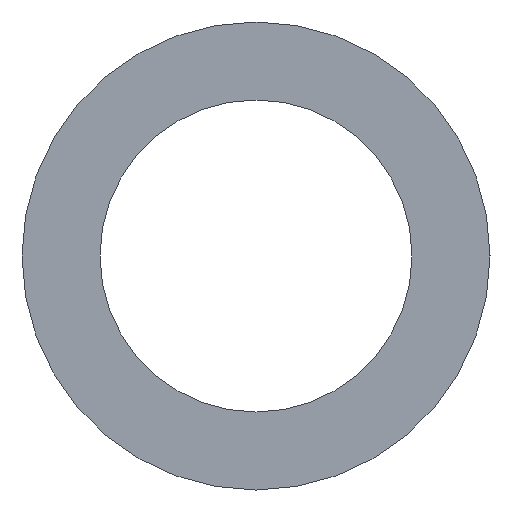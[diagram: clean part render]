
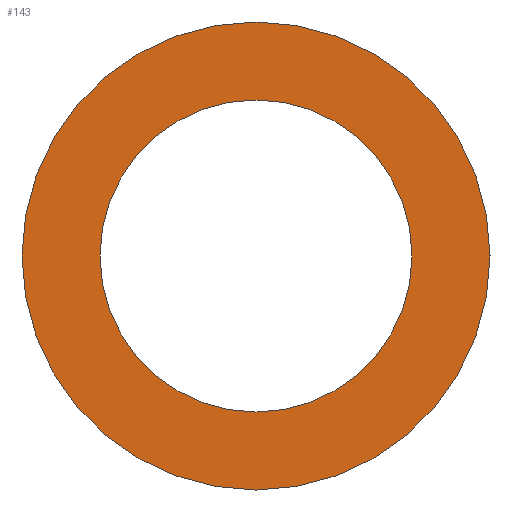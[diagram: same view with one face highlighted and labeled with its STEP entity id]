
A CAD part, left-side view. The second image highlights one B-rep face of the part: STEP entity #143.
In plain terms, the highlighted planar face has unit normal (-1, 0, 0).
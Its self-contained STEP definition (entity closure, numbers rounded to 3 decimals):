
#21=PLANE('',#173);
#32=ORIENTED_EDGE('',*,*,#55,.F.);
#33=ORIENTED_EDGE('',*,*,#56,.T.);
#55=EDGE_CURVE('',#67,#67,#79,.T.);
#56=EDGE_CURVE('',#68,#68,#80,.T.);
#67=VERTEX_POINT('',#255);
#68=VERTEX_POINT('',#257);
#79=CIRCLE('',#174,22.5);
#80=CIRCLE('',#175,15.);
#92=EDGE_LOOP('',(#32));
#93=EDGE_LOOP('',(#33));
#116=FACE_BOUND('',#92,.T.);
#117=FACE_BOUND('',#93,.T.);
#143=ADVANCED_FACE('',(#116,#117),#21,.F.);
#173=AXIS2_PLACEMENT_3D('',#253,#207,#208);
#174=AXIS2_PLACEMENT_3D('',#254,#209,#210);
#175=AXIS2_PLACEMENT_3D('',#256,#211,#212);
#207=DIRECTION('',(1.,0.,0.));
#208=DIRECTION('',(0.,0.,-1.));
#209=DIRECTION('',(1.,0.,0.));
#210=DIRECTION('',(0.,0.,-1.));
#211=DIRECTION('',(1.,0.,0.));
#212=DIRECTION('',(0.,0.,-1.));
#253=CARTESIAN_POINT('',(-61.5,0.,0.));
#254=CARTESIAN_POINT('',(-61.5,0.,0.));
#255=CARTESIAN_POINT('',(-61.5,0.,-22.5));
#256=CARTESIAN_POINT('',(-61.5,0.,0.));
#257=CARTESIAN_POINT('',(-61.5,0.,-15.));
